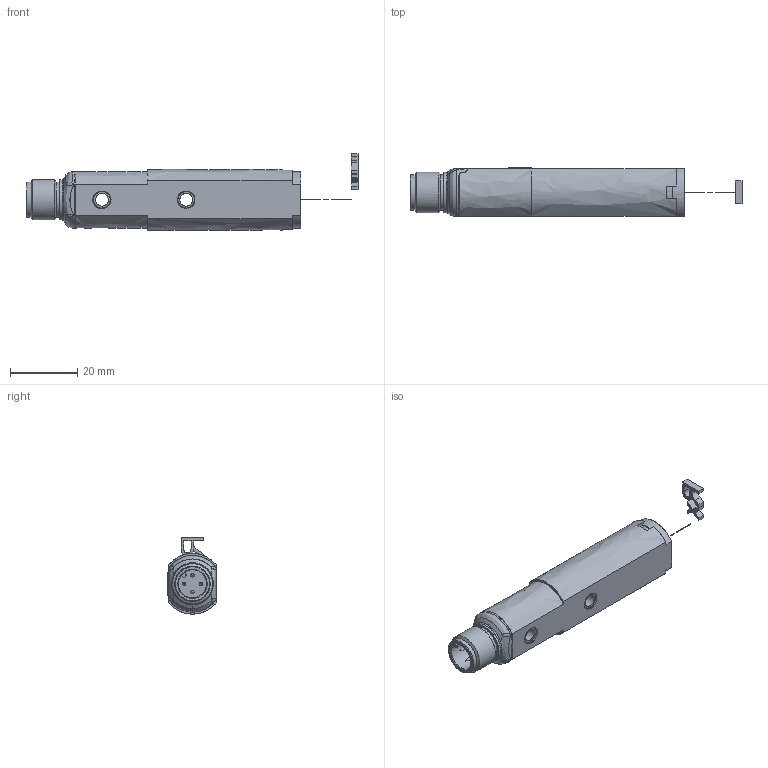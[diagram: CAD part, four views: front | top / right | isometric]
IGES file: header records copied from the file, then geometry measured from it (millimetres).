
Global section: file name: D:\TMP\DSD-0037.igs; preprocessor: I-DEAS 3D IGES Translator 11; date: 20060607.085641; units: millimetre
Bounding box: 98.55 x 14.3 x 22.63 mm (x, y, z)
Surface area: 5749.4 mm2
Topology: 2 solids, 2 shells, 214 faces, 1219 edges, 1123 vertices
Faces by surface type: bspline 214
